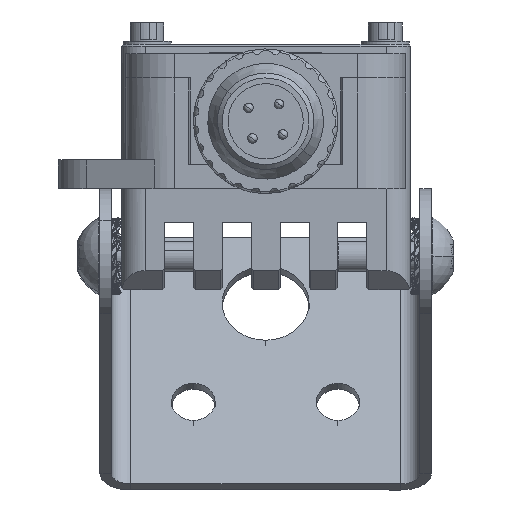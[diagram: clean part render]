
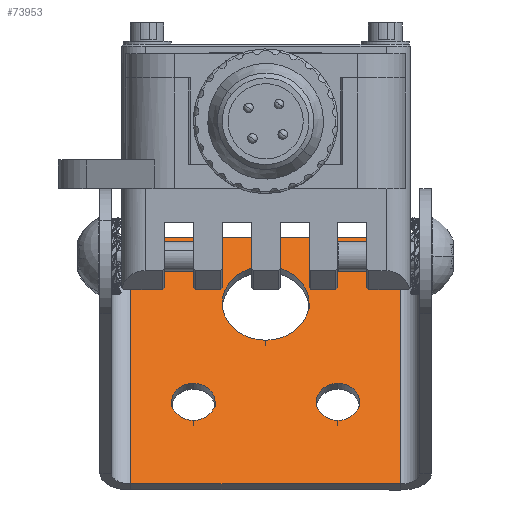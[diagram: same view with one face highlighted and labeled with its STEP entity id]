
A CAD part, front view. The second image highlights one B-rep face of the part: STEP entity #73953.
In plain terms, the highlighted planar face has unit normal (0, -0.853, 0.523).
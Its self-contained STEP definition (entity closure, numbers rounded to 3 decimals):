
#72759 = EDGE_CURVE ( 'NONE', #72761, #72762, #98308, .T. ) ;
#72761 = VERTEX_POINT ( 'NONE', #98303 ) ;
#72762 = VERTEX_POINT ( 'NONE', #98302 ) ;
#72787 = EDGE_CURVE ( 'NONE', #72788, #72790, #98361, .T. ) ;
#72788 = VERTEX_POINT ( 'NONE', #98350 ) ;
#72790 = VERTEX_POINT ( 'NONE', #98349 ) ;
#72817 = EDGE_CURVE ( 'NONE', #72818, #72819, #98432, .T. ) ;
#72818 = VERTEX_POINT ( 'NONE', #98421 ) ;
#72819 = VERTEX_POINT ( 'NONE', #98420 ) ;
#73091 = VERTEX_POINT ( 'NONE', #99212 ) ;
#73097 = EDGE_CURVE ( 'NONE', #73132, #73091, #99238, .T. ) ;
#73132 = VERTEX_POINT ( 'NONE', #99339 ) ;
#73151 = VERTEX_POINT ( 'NONE', #99385 ) ;
#73953 = ADVANCED_FACE ( 'NONE', ( #101864, #101859, #101858, #101857 ), #101898, .F. ) ;
#73955 = EDGE_LOOP ( 'NONE', ( #73957, #73962 ) ) ;
#73957 = ORIENTED_EDGE ( 'NONE', *, *, #73959, .T. ) ;
#73959 = EDGE_CURVE ( 'NONE', #72762, #72761, #101921, .T. ) ;
#73962 = ORIENTED_EDGE ( 'NONE', *, *, #72759, .T. ) ;
#73963 = EDGE_LOOP ( 'NONE', ( #73966, #73994 ) ) ;
#73966 = ORIENTED_EDGE ( 'NONE', *, *, #73969, .T. ) ;
#73969 = EDGE_CURVE ( 'NONE', #72819, #72818, #101971, .T. ) ;
#73994 = ORIENTED_EDGE ( 'NONE', *, *, #72817, .T. ) ;
#73996 = EDGE_LOOP ( 'NONE', ( #73998, #74002 ) ) ;
#73998 = ORIENTED_EDGE ( 'NONE', *, *, #74000, .T. ) ;
#74000 = EDGE_CURVE ( 'NONE', #72790, #72788, #102074, .T. ) ;
#74002 = ORIENTED_EDGE ( 'NONE', *, *, #72787, .T. ) ;
#74004 = EDGE_LOOP ( 'NONE', ( #74006, #74010, #74013, #74018 ) ) ;
#74006 = ORIENTED_EDGE ( 'NONE', *, *, #74008, .F. ) ;
#74008 = EDGE_CURVE ( 'NONE', #73151, #73091, #102069, .T. ) ;
#74010 = ORIENTED_EDGE ( 'NONE', *, *, #74029, .T. ) ;
#74013 = ORIENTED_EDGE ( 'NONE', *, *, #74016, .F. ) ;
#74016 = EDGE_CURVE ( 'NONE', #73132, #74026, #102087, .T. ) ;
#74018 = ORIENTED_EDGE ( 'NONE', *, *, #73097, .T. ) ;
#74026 = VERTEX_POINT ( 'NONE', #102120 ) ;
#74029 = EDGE_CURVE ( 'NONE', #73151, #74026, #102122, .T. ) ;
#98302 = CARTESIAN_POINT ( 'NONE',  ( -32.487, 48.008, -25.392 ) ) ;
#98303 = CARTESIAN_POINT ( 'NONE',  ( -32.487, 45.656, -29.228 ) ) ;
#98304 = DIRECTION ( 'NONE',  ( 0., 0.523, 0.853 ) ) ;
#98305 = DIRECTION ( 'NONE',  ( 0., 0.853, -0.523 ) ) ;
#98306 = CARTESIAN_POINT ( 'NONE',  ( -32.487, 46.832, -27.31 ) ) ;
#98307 = AXIS2_PLACEMENT_3D ( 'NONE', #98306, #98305, #98304 ) ;
#98308 = CIRCLE ( 'NONE', #98307, 2.25 ) ;
#98349 = CARTESIAN_POINT ( 'NONE',  ( -39.987, 55.457, -13.244 ) ) ;
#98350 = CARTESIAN_POINT ( 'NONE',  ( -39.987, 50.753, -20.916 ) ) ;
#98351 = DIRECTION ( 'NONE',  ( 0., 0.523, 0.853 ) ) ;
#98352 = DIRECTION ( 'NONE',  ( 0., 0.853, -0.523 ) ) ;
#98353 = CARTESIAN_POINT ( 'NONE',  ( -39.987, 53.105, -17.08 ) ) ;
#98354 = AXIS2_PLACEMENT_3D ( 'NONE', #98353, #98352, #98351 ) ;
#98361 = CIRCLE ( 'NONE', #98354, 4.5 ) ;
#98420 = CARTESIAN_POINT ( 'NONE',  ( -47.487, 48.008, -25.392 ) ) ;
#98421 = CARTESIAN_POINT ( 'NONE',  ( -47.487, 45.656, -29.228 ) ) ;
#98422 = DIRECTION ( 'NONE',  ( 0., 0.523, 0.853 ) ) ;
#98423 = DIRECTION ( 'NONE',  ( 0., 0.853, -0.523 ) ) ;
#98424 = CARTESIAN_POINT ( 'NONE',  ( -47.487, 46.832, -27.31 ) ) ;
#98425 = AXIS2_PLACEMENT_3D ( 'NONE', #98424, #98423, #98422 ) ;
#98432 = CIRCLE ( 'NONE', #98425, 2.25 ) ;
#99212 = CARTESIAN_POINT ( 'NONE',  ( -53.987, 57.287, -10.26 ) ) ;
#99235 = DIRECTION ( 'NONE',  ( -1., 0., 0. ) ) ;
#99236 = VECTOR ( 'NONE', #99235, 1000. ) ;
#99237 = CARTESIAN_POINT ( 'NONE',  ( -55.987, 57.287, -10.26 ) ) ;
#99238 = LINE ( 'NONE', #99237, #99236 ) ;
#99339 = CARTESIAN_POINT ( 'NONE',  ( -25.987, 57.287, -10.26 ) ) ;
#99385 = CARTESIAN_POINT ( 'NONE',  ( -53.987, 41.605, -35.835 ) ) ;
#101857 = FACE_OUTER_BOUND ( 'NONE', #74004, .T. ) ;
#101858 = FACE_BOUND ( 'NONE', #73996, .T. ) ;
#101859 = FACE_BOUND ( 'NONE', #73963, .T. ) ;
#101864 = FACE_BOUND ( 'NONE', #73955, .T. ) ;
#101892 = DIRECTION ( 'NONE',  ( 0., 0.523, 0.853 ) ) ;
#101893 = DIRECTION ( 'NONE',  ( 0., 0.853, -0.523 ) ) ;
#101894 = CARTESIAN_POINT ( 'NONE',  ( -23.987, 57.287, -10.26 ) ) ;
#101895 = AXIS2_PLACEMENT_3D ( 'NONE', #101894, #101893, #101892 ) ;
#101898 = PLANE ( 'NONE',  #101895 ) ;
#101913 = DIRECTION ( 'NONE',  ( 0., 0.523, 0.853 ) ) ;
#101914 = DIRECTION ( 'NONE',  ( 0., 0.853, -0.523 ) ) ;
#101915 = CARTESIAN_POINT ( 'NONE',  ( -32.487, 46.832, -27.31 ) ) ;
#101916 = AXIS2_PLACEMENT_3D ( 'NONE', #101915, #101914, #101913 ) ;
#101921 = CIRCLE ( 'NONE', #101916, 2.25 ) ;
#101925 = CARTESIAN_POINT ( 'NONE',  ( -47.487, 46.832, -27.31 ) ) ;
#101968 = DIRECTION ( 'NONE',  ( 0., 0.523, 0.853 ) ) ;
#101969 = DIRECTION ( 'NONE',  ( 0., 0.853, -0.523 ) ) ;
#101970 = AXIS2_PLACEMENT_3D ( 'NONE', #101925, #101969, #101968 ) ;
#101971 = CIRCLE ( 'NONE', #101970, 2.25 ) ;
#102060 = DIRECTION ( 'NONE',  ( 0., 0.523, 0.853 ) ) ;
#102061 = VECTOR ( 'NONE', #102060, 1000. ) ;
#102062 = CARTESIAN_POINT ( 'NONE',  ( -53.987, 41.605, -35.835 ) ) ;
#102069 = LINE ( 'NONE', #102062, #102061 ) ;
#102070 = DIRECTION ( 'NONE',  ( 0., 0.523, 0.853 ) ) ;
#102071 = DIRECTION ( 'NONE',  ( 0., 0.853, -0.523 ) ) ;
#102072 = CARTESIAN_POINT ( 'NONE',  ( -39.987, 53.105, -17.08 ) ) ;
#102073 = AXIS2_PLACEMENT_3D ( 'NONE', #102072, #102071, #102070 ) ;
#102074 = CIRCLE ( 'NONE', #102073, 4.5 ) ;
#102083 = DIRECTION ( 'NONE',  ( 0., -0.523, -0.853 ) ) ;
#102084 = VECTOR ( 'NONE', #102083, 1000. ) ;
#102086 = CARTESIAN_POINT ( 'NONE',  ( -25.987, 57.287, -10.26 ) ) ;
#102087 = LINE ( 'NONE', #102086, #102084 ) ;
#102107 = VECTOR ( 'NONE', #102118, 1000. ) ;
#102118 = DIRECTION ( 'NONE',  ( 1., 0., 0. ) ) ;
#102119 = CARTESIAN_POINT ( 'NONE',  ( -55.987, 41.605, -35.835 ) ) ;
#102120 = CARTESIAN_POINT ( 'NONE',  ( -25.987, 41.605, -35.835 ) ) ;
#102122 = LINE ( 'NONE', #102119, #102107 ) ;
